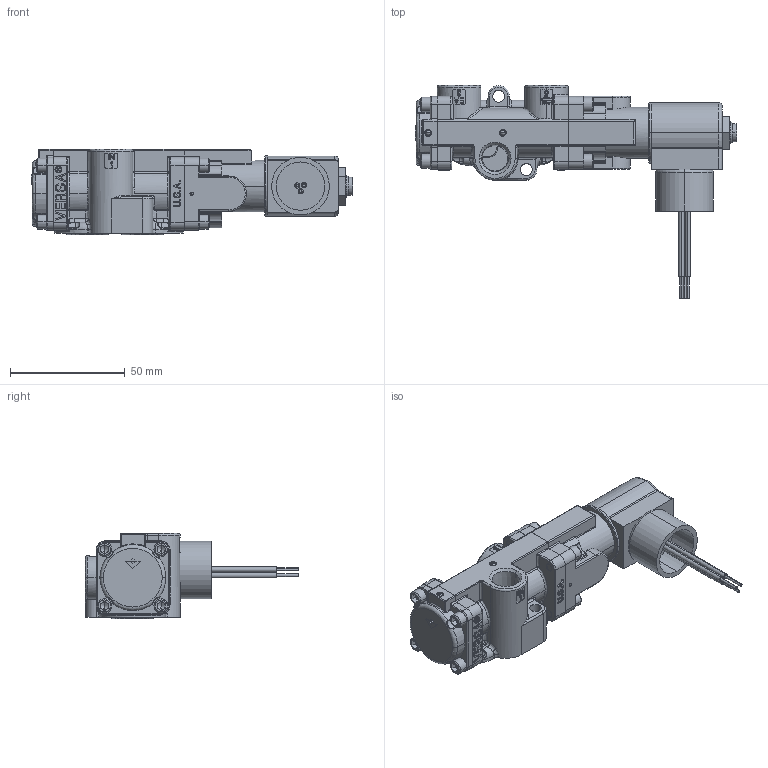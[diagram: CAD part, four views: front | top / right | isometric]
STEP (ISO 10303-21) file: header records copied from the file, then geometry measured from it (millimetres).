
FILE_DESCRIPTION (( 'STEP AP214' ), '1' );
FILE_NAME ('TVSS-X411-4N-XXX.STEP', '2025-05-08T15:03:07', ( '' ), ( '' ), 'SwSTEP 2.0', 'SolidWorks 2023', '' );
FILE_SCHEMA (( 'AUTOMOTIVE_DESIGN' ));
Length unit declared in the file: inch
Products named in the file (17): PAS-M4-12-316.1^CGS-4322-316-NE1-XN-A120_TVSS-X411-4N_0; PAS-M4-10-316.2^CGS-4322-316-NE1-XN-A120_TVSS-X411-4N_0; C-4332-101-316-NE-1-0^C-4332-101-316-NE-1_TVSS-X411-4N_0; C-4332-101-316-NE^CGS-4322-316-NE1-XN-A120_TVSS-X411-4N_0; P-1003-03-316.1^CGS-4322-316-NE1-XN-A120_TVSS-X411-4N_0; E5-3198-34-PC-VOLT^TVSS-X411-4N_0; C-4332-101-316-NE-1^TVSS-X411-4N_0; P-1000-016-155.2^CGS-4322-316-NE1-XN-A120_TVSS-X411-4N_0; CGS-4322-316-NE1-XN-A120^TVSS-X411-4N_0; P-1003-03-316^C-4332-101-316-NE_CGS-4322-316-NE1-XN-A120_TVSS-X411-4N_0; P-1000-003-155.1^CGS-4322-316-NE1-XN-A120_TVSS-X411-4N_0; P-1005-90-PC-VOLT^E5-3198-34-PC-VOLT_TVSS-X411-4N_0; P-1005-04AC^E5-3198-34-PC-VOLT_TVSS-X411-4N_0; P-1005-09^E5-3198-34-PC-VOLT_TVSS-X411-4N_0; b-3229-51-316^TVSS-X411-4N_0; C-3209-12-316^CGS-4322-316-NE1-XN-A120_TVSS-X411-4N_0; TVSS-X411-4N-XXX
Assembly tree (23 placements, depth 4):
  TVSS-X411-4N-XXX
    C-4332-101-316-NE-1^TVSS-X411-4N_0
      C-4332-101-316-NE-1-0^C-4332-101-316-NE-1_TVSS-X411-4N_0
    CGS-4322-316-NE1-XN-A120^TVSS-X411-4N_0
      C-4332-101-316-NE^CGS-4322-316-NE1-XN-A120_TVSS-X411-4N_0
        P-1003-03-316^C-4332-101-316-NE_CGS-4322-316-NE1-XN-A120_TVSS-X411-4N_0
      PAS-M4-10-316.2^CGS-4322-316-NE1-XN-A120_TVSS-X411-4N_0  x4
      PAS-M4-12-316.1^CGS-4322-316-NE1-XN-A120_TVSS-X411-4N_0  x4
      P-1000-016-155.2^CGS-4322-316-NE1-XN-A120_TVSS-X411-4N_0  x2
      P-1003-03-316.1^CGS-4322-316-NE1-XN-A120_TVSS-X411-4N_0
      P-1000-003-155.1^CGS-4322-316-NE1-XN-A120_TVSS-X411-4N_0
      C-3209-12-316^CGS-4322-316-NE1-XN-A120_TVSS-X411-4N_0
    b-3229-51-316^TVSS-X411-4N_0
    E5-3198-34-PC-VOLT^TVSS-X411-4N_0
      P-1005-04AC^E5-3198-34-PC-VOLT_TVSS-X411-4N_0
      P-1005-09^E5-3198-34-PC-VOLT_TVSS-X411-4N_0
      P-1005-90-PC-VOLT^E5-3198-34-PC-VOLT_TVSS-X411-4N_0
Bounding box: 140.06 x 92.86 x 37.16 mm (x, y, z)
Volume: 88991.8 mm3; surface area: 46321.2 mm2
Topology: 19 solids, 19 shells, 1772 faces, 4536 edges, 2831 vertices
Faces by surface type: plane 856, cylinder 424, bspline 224, cone 146, torus 114, sphere 8
Entity records: 84820 total; most frequent: CARTESIAN_POINT 46648, ORIENTED_EDGE 8286, DIRECTION 7254, EDGE_CURVE 4143, VERTEX_POINT 2625, AXIS2_PLACEMENT_3D 2564, VECTOR 2126, LINE 2126
